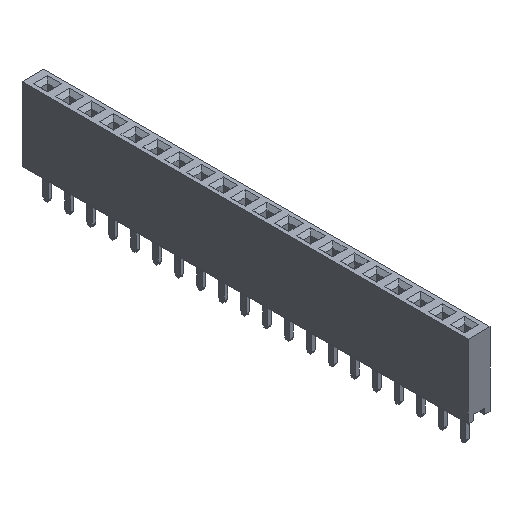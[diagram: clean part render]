
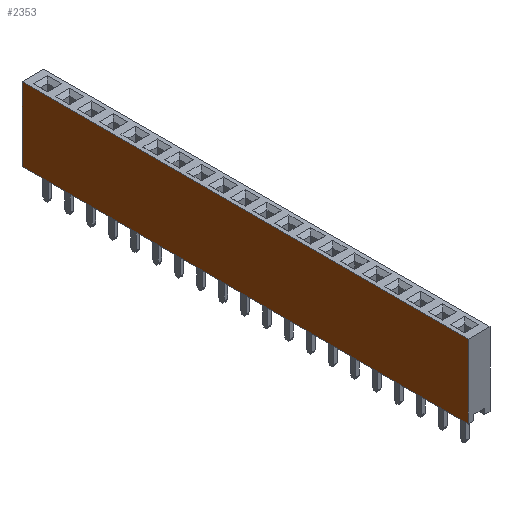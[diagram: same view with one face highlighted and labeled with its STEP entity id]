
A CAD part, isometric view. The second image highlights one B-rep face of the part: STEP entity #2353.
In plain terms, the highlighted planar face has unit normal (-1, 0, 0).
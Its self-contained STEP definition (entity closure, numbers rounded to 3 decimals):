
#13=DIRECTION('',(0.,0.,1.));
#73=VECTOR('',#74,1.);
#74=DIRECTION('',(0.,-1.,0.));
#99=VECTOR('',#13,1.);
#190=DIRECTION('',(-1.,0.,-0.));
#725=EDGE_CURVE('',#726,#728,#730,.T.);
#726=VERTEX_POINT('',#727);
#727=CARTESIAN_POINT('',(-10.16,25.8,0.));
#728=VERTEX_POINT('',#729);
#729=CARTESIAN_POINT('',(-10.16,25.8,8.5));
#730=LINE('',#727,#99);
#760=ORIENTED_EDGE('',*,*,#761,.T.);
#761=EDGE_CURVE('',#762,#764,#766,.T.);
#762=VERTEX_POINT('',#763);
#763=CARTESIAN_POINT('',(-10.16,-25.8,0.));
#764=VERTEX_POINT('',#765);
#765=CARTESIAN_POINT('',(-10.16,-25.8,8.5));
#766=LINE('',#763,#99);
#2346=ORIENTED_EDGE('',*,*,#2347,.T.);
#2347=EDGE_CURVE('',#726,#762,#2348,.T.);
#2348=LINE('',#727,#73);
#2353=ADVANCED_FACE('',(#2354),#2360,.T.);
#2354=FACE_BOUND('',#2355,.T.);
#2355=EDGE_LOOP('',(#2346,#760,#2356,#2359));
#2356=ORIENTED_EDGE('',*,*,#2357,.F.);
#2357=EDGE_CURVE('',#728,#764,#2358,.T.);
#2358=LINE('',#729,#73);
#2359=ORIENTED_EDGE('',*,*,#725,.F.);
#2360=PLANE('',#2361);
#2361=AXIS2_PLACEMENT_3D('',#727,#190,#13);
